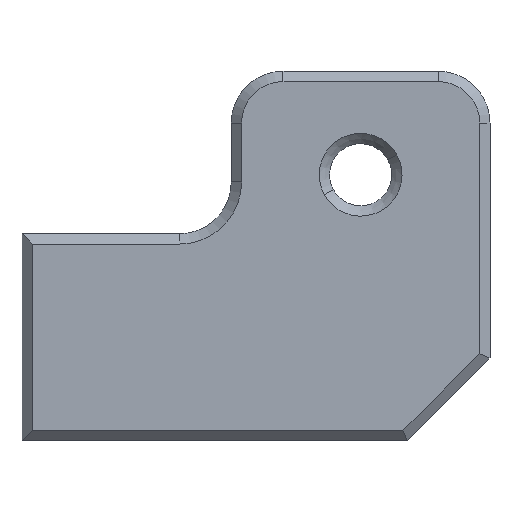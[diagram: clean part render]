
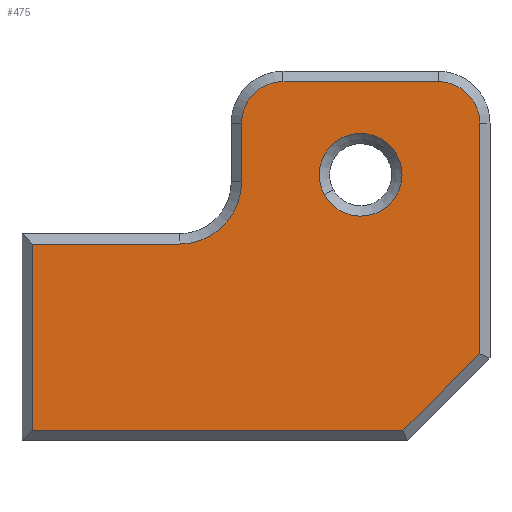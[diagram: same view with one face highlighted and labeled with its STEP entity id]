
A CAD part, left-side view. The second image highlights one B-rep face of the part: STEP entity #475.
In plain terms, the highlighted planar face has unit normal (-1, 0, 0).
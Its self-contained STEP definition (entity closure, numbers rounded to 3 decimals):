
#145=CARTESIAN_POINT('Vertex',(-5.,17.5,9.)) ;
#148=CARTESIAN_POINT('Axis2P3D Location',(-5.,17.5,15.)) ;
#152=CARTESIAN_POINT('Vertex',(-5.,11.5,15.)) ;
#179=CARTESIAN_POINT('Line Origine',(-5.,11.5,7.849)) ;
#183=CARTESIAN_POINT('Vertex',(-5.,11.5,20.699)) ;
#210=CARTESIAN_POINT('Axis2P3D Location',(-5.,7.5,20.699)) ;
#214=CARTESIAN_POINT('Vertex',(-5.,7.5,24.699)) ;
#241=CARTESIAN_POINT('Line Origine',(-5.,10.109,24.699)) ;
#245=CARTESIAN_POINT('Vertex',(-5.,-7.5,24.699)) ;
#272=CARTESIAN_POINT('Axis2P3D Location',(-5.,-7.5,20.699)) ;
#276=CARTESIAN_POINT('Vertex',(-5.,-11.5,20.699)) ;
#306=CARTESIAN_POINT('Vertex',(-5.,31.717,9.)) ;
#321=CARTESIAN_POINT('Vertex',(-5.,31.717,-9.)) ;
#324=CARTESIAN_POINT('Line Origine',(-5.,31.717,7.849)) ;
#348=CARTESIAN_POINT('Line Origine',(-5.,-11.5,7.849)) ;
#352=CARTESIAN_POINT('Vertex',(-5.,-11.5,-1.586)) ;
#371=CARTESIAN_POINT('Line Origine',(-5.,10.109,9.)) ;
#396=CARTESIAN_POINT('Vertex',(-5.,-4.086,-9.)) ;
#406=CARTESIAN_POINT('Line Origine',(-5.,-8.745,-4.341)) ;
#428=CARTESIAN_POINT('Line Origine',(-5.,10.109,-9.)) ;
#440=CARTESIAN_POINT('Axis2P3D Location',(-5.,0.,0.)) ;
#457=CARTESIAN_POINT('Axis2P3D Location',(-5.,0.,15.699)) ;
#461=CARTESIAN_POINT('Vertex',(-5.,-3.51,17.616)) ;
#463=CARTESIAN_POINT('Vertex',(-5.,3.51,13.781)) ;
#466=CARTESIAN_POINT('Axis2P3D Location',(-5.,0.,15.699)) ;
#149=DIRECTION('Axis2P3D Direction',(1.,0.,0.)) ;
#180=DIRECTION('Vector Direction',(0.,0.,1.)) ;
#211=DIRECTION('Axis2P3D Direction',(1.,0.,0.)) ;
#242=DIRECTION('Vector Direction',(0.,-1.,0.)) ;
#273=DIRECTION('Axis2P3D Direction',(1.,0.,0.)) ;
#325=DIRECTION('Vector Direction',(0.,0.,1.)) ;
#349=DIRECTION('Vector Direction',(0.,0.,-1.)) ;
#372=DIRECTION('Vector Direction',(0.,-1.,0.)) ;
#407=DIRECTION('Vector Direction',(0.,0.707,-0.707)) ;
#429=DIRECTION('Vector Direction',(0.,1.,0.)) ;
#441=DIRECTION('Axis2P3D Direction',(1.,0.,0.)) ;
#442=DIRECTION('Axis2P3D XDirection',(0.,1.,0.)) ;
#458=DIRECTION('Axis2P3D Direction',(1.,0.,0.)) ;
#467=DIRECTION('Axis2P3D Direction',(1.,0.,0.)) ;
#150=AXIS2_PLACEMENT_3D('Circle Axis2P3D',#148,#149,$) ;
#212=AXIS2_PLACEMENT_3D('Circle Axis2P3D',#210,#211,$) ;
#274=AXIS2_PLACEMENT_3D('Circle Axis2P3D',#272,#273,$) ;
#443=AXIS2_PLACEMENT_3D('Plane Axis2P3D',#440,#441,#442) ;
#459=AXIS2_PLACEMENT_3D('Circle Axis2P3D',#457,#458,$) ;
#468=AXIS2_PLACEMENT_3D('Circle Axis2P3D',#466,#467,$) ;
#446=ORIENTED_EDGE('',*,*,#354,.F.) ;
#447=ORIENTED_EDGE('',*,*,#278,.F.) ;
#448=ORIENTED_EDGE('',*,*,#247,.F.) ;
#449=ORIENTED_EDGE('',*,*,#216,.F.) ;
#450=ORIENTED_EDGE('',*,*,#185,.F.) ;
#451=ORIENTED_EDGE('',*,*,#154,.F.) ;
#452=ORIENTED_EDGE('',*,*,#375,.F.) ;
#453=ORIENTED_EDGE('',*,*,#328,.F.) ;
#454=ORIENTED_EDGE('',*,*,#432,.F.) ;
#455=ORIENTED_EDGE('',*,*,#410,.F.) ;
#472=ORIENTED_EDGE('',*,*,#465,.T.) ;
#473=ORIENTED_EDGE('',*,*,#470,.T.) ;
#474=FACE_BOUND('',#471,.T.) ;
#181=VECTOR('Line Direction',#180,1.) ;
#243=VECTOR('Line Direction',#242,1.) ;
#326=VECTOR('Line Direction',#325,1.) ;
#350=VECTOR('Line Direction',#349,1.) ;
#373=VECTOR('Line Direction',#372,1.) ;
#408=VECTOR('Line Direction',#407,1.) ;
#430=VECTOR('Line Direction',#429,1.) ;
#475=ADVANCED_FACE('Corps principal',(#456,#474),#444,.F.) ;
#151=CIRCLE('generated circle',#150,6.) ;
#213=CIRCLE('generated circle',#212,4.) ;
#275=CIRCLE('generated circle',#274,4.) ;
#460=CIRCLE('generated circle',#459,4.) ;
#469=CIRCLE('generated circle',#468,4.) ;
#154=EDGE_CURVE('',#146,#153,#151,.F.) ;
#185=EDGE_CURVE('',#153,#184,#182,.T.) ;
#216=EDGE_CURVE('',#184,#215,#213,.T.) ;
#247=EDGE_CURVE('',#215,#246,#244,.T.) ;
#278=EDGE_CURVE('',#246,#277,#275,.T.) ;
#328=EDGE_CURVE('',#322,#307,#327,.T.) ;
#354=EDGE_CURVE('',#277,#353,#351,.T.) ;
#375=EDGE_CURVE('',#307,#146,#374,.T.) ;
#410=EDGE_CURVE('',#353,#397,#409,.T.) ;
#432=EDGE_CURVE('',#397,#322,#431,.T.) ;
#465=EDGE_CURVE('',#462,#464,#460,.T.) ;
#470=EDGE_CURVE('',#464,#462,#469,.T.) ;
#445=EDGE_LOOP('',(#446,#447,#448,#449,#450,#451,#452,#453,#454,#455)) ;
#471=EDGE_LOOP('',(#472,#473)) ;
#456=FACE_OUTER_BOUND('',#445,.T.) ;
#182=LINE('Line',#179,#181) ;
#244=LINE('Line',#241,#243) ;
#327=LINE('Line',#324,#326) ;
#351=LINE('Line',#348,#350) ;
#374=LINE('Line',#371,#373) ;
#409=LINE('Line',#406,#408) ;
#431=LINE('Line',#428,#430) ;
#444=PLANE('',#443) ;
#146=VERTEX_POINT('',#145) ;
#153=VERTEX_POINT('',#152) ;
#184=VERTEX_POINT('',#183) ;
#215=VERTEX_POINT('',#214) ;
#246=VERTEX_POINT('',#245) ;
#277=VERTEX_POINT('',#276) ;
#307=VERTEX_POINT('',#306) ;
#322=VERTEX_POINT('',#321) ;
#353=VERTEX_POINT('',#352) ;
#397=VERTEX_POINT('',#396) ;
#462=VERTEX_POINT('',#461) ;
#464=VERTEX_POINT('',#463) ;
